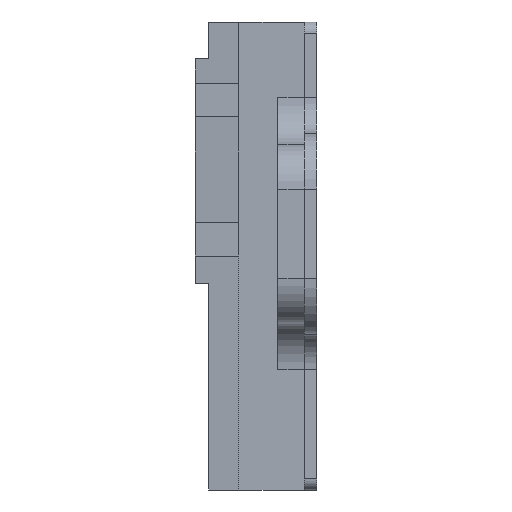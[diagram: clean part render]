
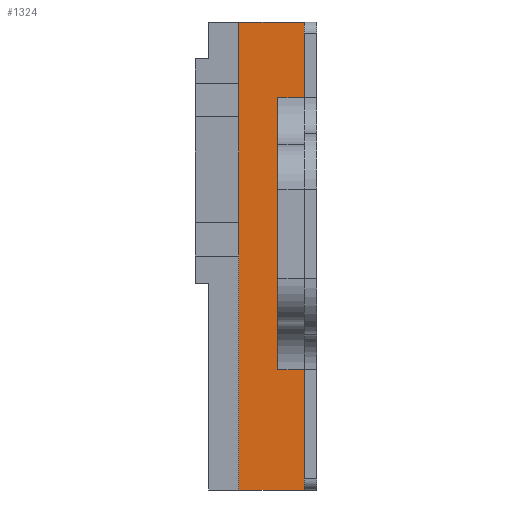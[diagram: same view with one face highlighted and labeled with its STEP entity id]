
A CAD part, left-side view. The second image highlights one B-rep face of the part: STEP entity #1324.
In plain terms, the highlighted planar face has unit normal (-1, 0, 0).
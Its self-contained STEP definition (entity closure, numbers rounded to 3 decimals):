
#54 = VECTOR ( 'NONE', #1622, 1000. ) ;
#64 = VECTOR ( 'NONE', #1110, 1000. ) ;
#103 = AXIS2_PLACEMENT_3D ( 'NONE', #760, #2050, #2108 ) ;
#209 = CARTESIAN_POINT ( 'NONE',  ( -9., 1.1, -12.2 ) ) ;
#323 = CARTESIAN_POINT ( 'NONE',  ( -9., 1.1, -12.2 ) ) ;
#345 = DIRECTION ( 'NONE',  ( 0., 0., -1. ) ) ;
#371 = DIRECTION ( 'NONE',  ( 0., 1., 0. ) ) ;
#378 = VECTOR ( 'NONE', #2581, 1000. ) ;
#381 = CARTESIAN_POINT ( 'NONE',  ( -9., 7., 12.2 ) ) ;
#439 = VERTEX_POINT ( 'NONE', #209 ) ;
#445 = LINE ( 'NONE', #1199, #1561 ) ;
#483 = EDGE_CURVE ( 'NONE', #439, #2740, #1811, .T. ) ;
#508 = VECTOR ( 'NONE', #1036, 1000. ) ;
#539 = EDGE_LOOP ( 'NONE', ( #2648, #1710, #2153, #708, #1556, #915, #705, #2428 ) ) ;
#549 = EDGE_CURVE ( 'NONE', #1910, #964, #1684, .T. ) ;
#553 = EDGE_CURVE ( 'NONE', #2544, #1382, #445, .T. ) ;
#571 = PLANE ( 'NONE',  #103 ) ;
#608 = LINE ( 'NONE', #1466, #64 ) ;
#652 = EDGE_CURVE ( 'NONE', #2418, #1707, #1980, .T. ) ;
#653 = CARTESIAN_POINT ( 'NONE',  ( -9., 10.9, 19. ) ) ;
#705 = ORIENTED_EDGE ( 'NONE', *, *, #1188, .F. ) ;
#708 = ORIENTED_EDGE ( 'NONE', *, *, #483, .T. ) ;
#746 = VECTOR ( 'NONE', #345, 1000. ) ;
#760 = CARTESIAN_POINT ( 'NONE',  ( -9., 1.1, -25.592 ) ) ;
#813 = VECTOR ( 'NONE', #2057, 1000. ) ;
#850 = FACE_OUTER_BOUND ( 'NONE', #539, .T. ) ;
#915 = ORIENTED_EDGE ( 'NONE', *, *, #553, .F. ) ;
#964 = VERTEX_POINT ( 'NONE', #1153 ) ;
#1036 = DIRECTION ( 'NONE',  ( 0., -1., 0. ) ) ;
#1110 = DIRECTION ( 'NONE',  ( 0., 0., -1. ) ) ;
#1122 = CARTESIAN_POINT ( 'NONE',  ( -9., 10.9, -23. ) ) ;
#1153 = CARTESIAN_POINT ( 'NONE',  ( -9., 1.1, -23. ) ) ;
#1188 = EDGE_CURVE ( 'NONE', #1707, #2544, #608, .T. ) ;
#1199 = CARTESIAN_POINT ( 'NONE',  ( -9., 1.1, 12.2 ) ) ;
#1215 = DIRECTION ( 'NONE',  ( 0., 1., 0. ) ) ;
#1256 = VECTOR ( 'NONE', #371, 1000. ) ;
#1324 = ADVANCED_FACE ( 'NONE', ( #850 ), #571, .F. ) ;
#1357 = CARTESIAN_POINT ( 'NONE',  ( -9., 7., -23. ) ) ;
#1366 = CARTESIAN_POINT ( 'NONE',  ( -9., 1.1, 19. ) ) ;
#1382 = VERTEX_POINT ( 'NONE', #2543 ) ;
#1405 = CARTESIAN_POINT ( 'NONE',  ( -9., 3.5, -12.2 ) ) ;
#1430 = CARTESIAN_POINT ( 'NONE',  ( -9., 7., 19. ) ) ;
#1466 = CARTESIAN_POINT ( 'NONE',  ( -9., 1.1, 12.2 ) ) ;
#1532 = EDGE_CURVE ( 'NONE', #439, #964, #2526, .T. ) ;
#1556 = ORIENTED_EDGE ( 'NONE', *, *, #2446, .F. ) ;
#1561 = VECTOR ( 'NONE', #1215, 1000. ) ;
#1622 = DIRECTION ( 'NONE',  ( 0., 0., -1. ) ) ;
#1684 = LINE ( 'NONE', #1122, #508 ) ;
#1707 = VERTEX_POINT ( 'NONE', #1366 ) ;
#1710 = ORIENTED_EDGE ( 'NONE', *, *, #549, .T. ) ;
#1782 = CARTESIAN_POINT ( 'NONE',  ( -9., 3.5, 12.2 ) ) ;
#1811 = LINE ( 'NONE', #323, #1256 ) ;
#1830 = LINE ( 'NONE', #1782, #54 ) ;
#1910 = VERTEX_POINT ( 'NONE', #1357 ) ;
#1980 = LINE ( 'NONE', #653, #378 ) ;
#2019 = EDGE_CURVE ( 'NONE', #2418, #1910, #2456, .T. ) ;
#2048 = CARTESIAN_POINT ( 'NONE',  ( -9., 1.1, -25.592 ) ) ;
#2050 = DIRECTION ( 'NONE',  ( 1., 0., 0. ) ) ;
#2057 = DIRECTION ( 'NONE',  ( 0., 0., -1. ) ) ;
#2108 = DIRECTION ( 'NONE',  ( 0., 1., 0. ) ) ;
#2153 = ORIENTED_EDGE ( 'NONE', *, *, #1532, .F. ) ;
#2418 = VERTEX_POINT ( 'NONE', #1430 ) ;
#2428 = ORIENTED_EDGE ( 'NONE', *, *, #652, .F. ) ;
#2446 = EDGE_CURVE ( 'NONE', #1382, #2740, #1830, .T. ) ;
#2456 = LINE ( 'NONE', #381, #746 ) ;
#2526 = LINE ( 'NONE', #2048, #813 ) ;
#2543 = CARTESIAN_POINT ( 'NONE',  ( -9., 3.5, 12.2 ) ) ;
#2544 = VERTEX_POINT ( 'NONE', #2753 ) ;
#2581 = DIRECTION ( 'NONE',  ( 0., -1., 0. ) ) ;
#2648 = ORIENTED_EDGE ( 'NONE', *, *, #2019, .T. ) ;
#2740 = VERTEX_POINT ( 'NONE', #1405 ) ;
#2753 = CARTESIAN_POINT ( 'NONE',  ( -9., 1.1, 12.2 ) ) ;
